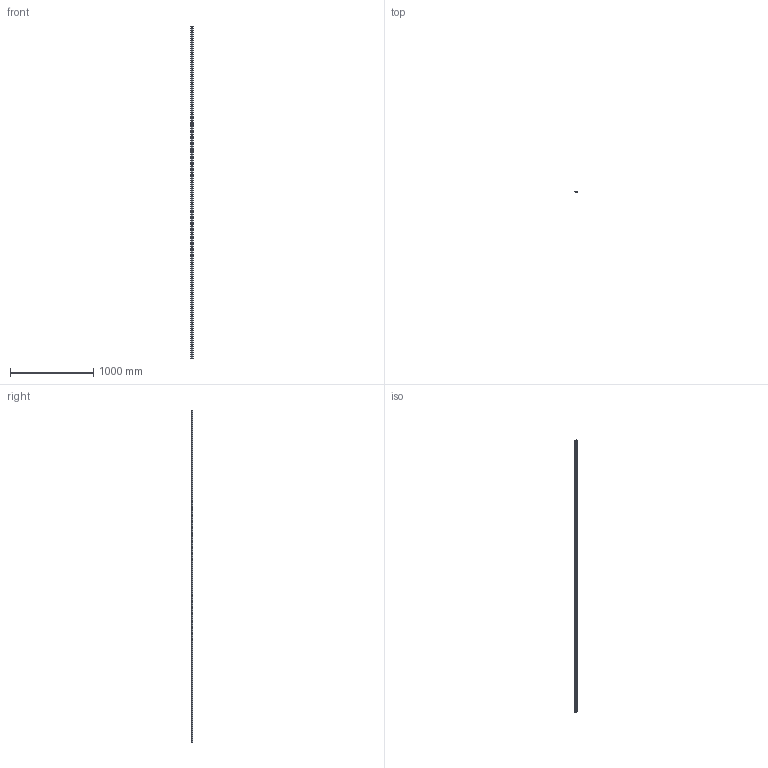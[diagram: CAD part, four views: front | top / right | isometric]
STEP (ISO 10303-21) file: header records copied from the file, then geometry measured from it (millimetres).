
FILE_DESCRIPTION(('STEP AP203'),'1');
FILE_NAME('slide_tnme_l4000.stp','2022-06-22T08:04:18',('TraceParts'),('TraceParts S.A.'),'Spatial InterOp 3D',' ',' ');
FILE_SCHEMA(('CONFIG_CONTROL_DESIGN'));
Length unit declared in the file: millimetre
Products named in the file (1): 1
Bounding box: 28.8 x 15.6 x 4000 mm (x, y, z)
Volume: 1262285.8 mm3; surface area: 380239.1 mm2
Topology: 1 solids, 1 shells, 253 faces, 615 edges, 410 vertices
Faces by surface type: cylinder 194, plane 59
Entity records: 7865 total; most frequent: DIRECTION 1511, CARTESIAN_POINT 1279, ORIENTED_EDGE 1230, AXIS2_PLACEMENT_3D 642, EDGE_CURVE 615, VERTEX_POINT 410, EDGE_LOOP 391, CIRCLE 388
